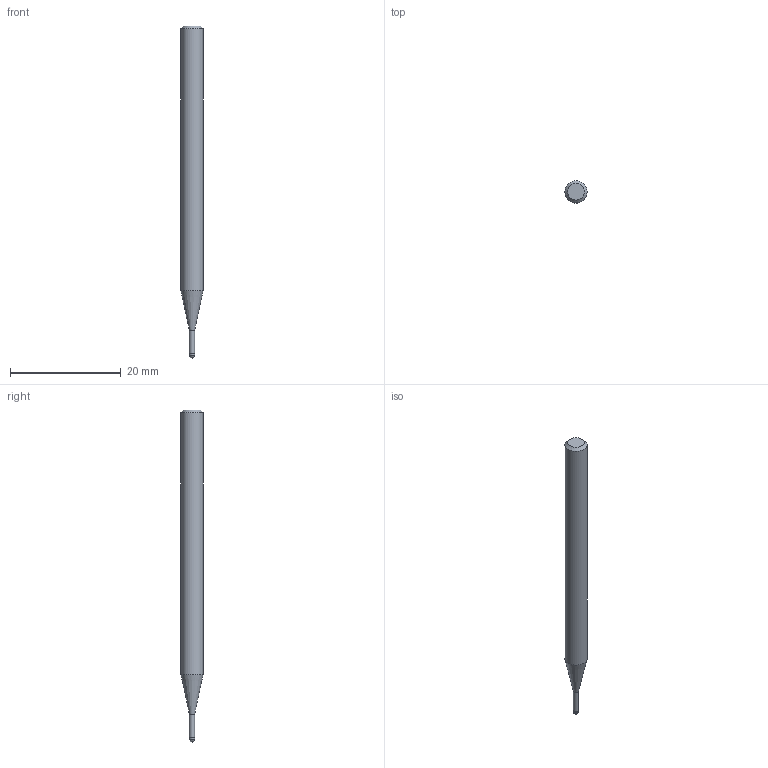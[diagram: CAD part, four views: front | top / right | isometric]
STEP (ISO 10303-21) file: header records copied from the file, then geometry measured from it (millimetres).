
FILE_DESCRIPTION((''),'2;1');
FILE_NAME('C:\Users\nsx150\AppData\Local\Temp\Mastercam 2021\EUJSUNXURU\TEMP.step','2021-04-22T10:22:41',(''),(''),'STEP Write','Mastercam 2021 ... CNC Software, Inc.','');
FILE_SCHEMA(('AUTOMOTIVE_DESIGN'));
Length unit declared in the file: millimetre
Products named in the file (1): None
Bounding box: 4 x 4 x 60 mm (x, y, z)
Volume: 641.9 mm3; surface area: 683.1 mm2
Topology: 2 solids, 2 shells, 9 faces, 14 edges, 8 vertices
Faces by surface type: plane 3, cylinder 3, cone 2, sphere 1
Full cylindrical faces by diameter (mm): 0.95 x1, 1 x1, 4 x1
Entity records: 211 total; most frequent: DIRECTION 36, CARTESIAN_POINT 25, AXIS2_PLACEMENT_3D 18, ORIENTED_EDGE 14, EDGE_LOOP 14, STYLED_ITEM 12, ADVANCED_FACE 9, FACE_BOUND 8
